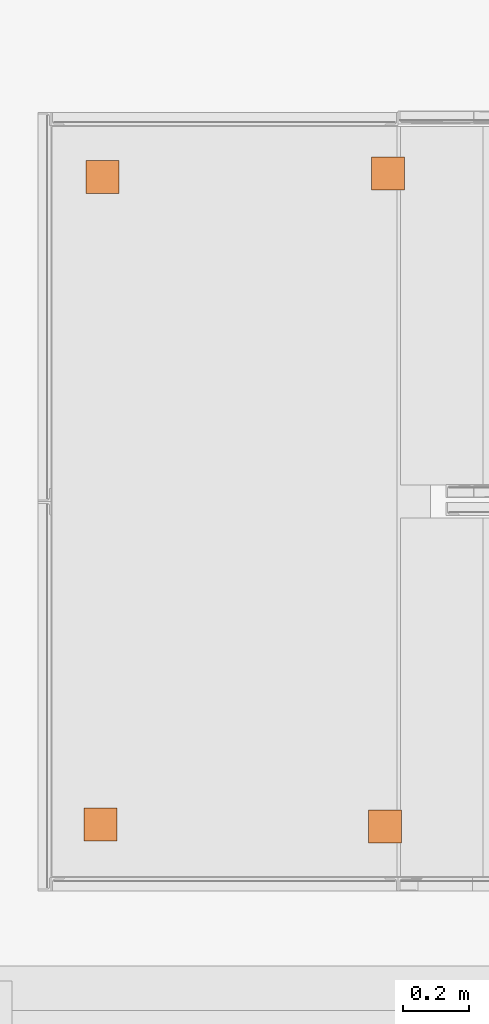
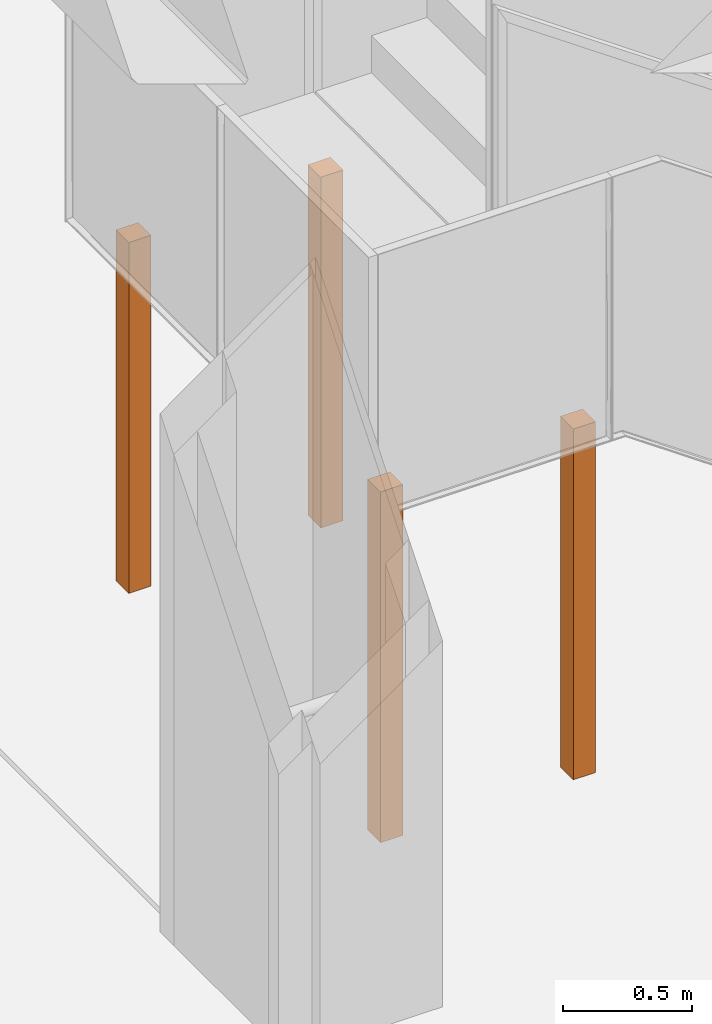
# One storey, part 212 of 230: 4 proxies.
"""IFC4X3_ADD2 building model written with IfcOpenShell, lengths in millimetres."""

from ifc_helpers import new_model, si_unit, direction, frame, frame_2d, origin_with_axes, place, context, subcontext, project, spatial, rectangle, extrude, source, transform, mapped, material, type_object, type_shapes, element, save


model = new_model("IFC4X3_ADD2")

# Units and contexts
model_context = context("Model", 3, precision=1e-05, world=origin_with_axes(), true_north=direction((0.0, 1.0)))
body_context = subcontext(model_context, "Body", "Model", "MODEL_VIEW")
ifc_project = project(units=[si_unit("LENGTHUNIT", "METRE", prefix="MILLI"), si_unit("AREAUNIT", "SQUARE_METRE"), si_unit("VOLUMEUNIT", "CUBIC_METRE"), si_unit("PLANEANGLEUNIT", "RADIAN"), si_unit("TIMEUNIT", "SECOND"), si_unit("MASSUNIT", "GRAM")], contexts=[model_context])

# Site, building, storey
site_placement = place(None, origin_with_axes())
site = spatial("IfcSite", under=ifc_project, at=site_placement, Name="Site", CompositionType="ELEMENT")
building_placement = place(site_placement, origin_with_axes())
building = spatial("IfcBuilding", under=site, at=building_placement, Name="IFC Building Story")
storey_placement = place(building_placement, origin_with_axes())
storey = spatial("IfcBuildingStorey", under=building, at=storey_placement, Name="ETAGE 00 (0)", Elevation=0.0)

# Proxies
ifc_material = material(Name="<Unnamed>")
building_element_proxy_type_1 = type_object("IfcBuildingElementProxyType", Name="1", PredefinedType="NOTDEFINED")
shared_shape_1 = source(origin_with_axes(), body_context, "Body", "SweptSolid", [
    extrude(rectangle(XDim=100.0, YDim=100.0000000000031, at=frame_2d((0.0, 5.95523630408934e-12), x_axis=(1.0, 0.0))), frame((34014.1894781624, 857.499963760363, 10.0), z_axis=(0.0, 0.0, 1.0), x_axis=(1.0, 0.0, 0.0)), (0.0, 0.0, 1.0), 1660.0),
])
type_shapes(building_element_proxy_type_1, [shared_shape_1])
proxy_1_placement = place(storey_placement, origin_with_axes())
element("IfcBuildingElementProxy", 1, at=proxy_1_placement, inside=storey, type_object=building_element_proxy_type_1, material=ifc_material, Name="1:708", ObjectType="1:708", context=body_context, shape_type="MappedRepresentation", body=[
    mapped(shared_shape_1, transform((0.0, 0.0, 0.0))),
])
building_element_proxy_type_2 = type_object("IfcBuildingElementProxyType", Name="3", PredefinedType="NOTDEFINED")
shared_shape_2 = source(origin_with_axes(), body_context, "Body", "SweptSolid", [
    extrude(rectangle(XDim=99.99999999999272, YDim=100.0000000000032, at=frame_2d((0.0, 5.95523630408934e-12), x_axis=(1.0, 0.0))), frame((34874.1894781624, 852.4999637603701, 10.0), z_axis=(0.0, 0.0, 1.0), x_axis=(1.0, 0.0, 0.0)), (0.0, 0.0, 1.0), 1660.0),
])
type_shapes(building_element_proxy_type_2, [shared_shape_2])
proxy_2_placement = place(storey_placement, origin_with_axes())
element("IfcBuildingElementProxy", 2, at=proxy_2_placement, inside=storey, type_object=building_element_proxy_type_2, material=ifc_material, Name="2:774", ObjectType="2:774", context=body_context, shape_type="MappedRepresentation", body=[
    mapped(shared_shape_2, transform((0.0, 0.0, 0.0))),
])
building_element_proxy_type_3 = type_object("IfcBuildingElementProxyType", Name="5", PredefinedType="NOTDEFINED")
shared_shape_3 = source(origin_with_axes(), body_context, "Body", "SweptSolid", [
    extrude(rectangle(XDim=100.0, YDim=100.0, at=frame_2d((0.0, 5.95523630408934e-12), x_axis=(0.0, 1.0))), frame((34019.1894781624, 2817.49996376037, 0.0), z_axis=(0.0, 0.0, 1.0), x_axis=(1.0, 0.0, 0.0)), (0.0, 0.0, 1.0), 1660.0),
])
type_shapes(building_element_proxy_type_3, [shared_shape_3])
proxy_3_placement = place(storey_placement, origin_with_axes())
element("IfcBuildingElementProxy", 3, at=proxy_3_placement, inside=storey, type_object=building_element_proxy_type_3, material=ifc_material, Name="3:924", ObjectType="3:924", context=body_context, shape_type="MappedRepresentation", body=[
    mapped(shared_shape_3, transform((0.0, 0.0, 0.0))),
])
building_element_proxy_type_4 = type_object("IfcBuildingElementProxyType", Name="7", PredefinedType="NOTDEFINED")
shared_shape_4 = source(origin_with_axes(), body_context, "Body", "SweptSolid", [
    extrude(rectangle(XDim=100.0, YDim=100.0, at=frame_2d((0.0, 5.95523630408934e-12), x_axis=(0.0, 1.0))), frame((34884.1894781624, 2827.49996376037, 0.0), z_axis=(0.0, 0.0, 1.0), x_axis=(1.0, 0.0, 0.0)), (0.0, 0.0, 1.0), 1660.0),
])
type_shapes(building_element_proxy_type_4, [shared_shape_4])
proxy_4_placement = place(storey_placement, origin_with_axes())
element("IfcBuildingElementProxy", 4, at=proxy_4_placement, inside=storey, type_object=building_element_proxy_type_4, material=ifc_material, Name="4:990", ObjectType="4:990", context=body_context, shape_type="MappedRepresentation", body=[
    mapped(shared_shape_4, transform((0.0, 0.0, 0.0))),
])

save(model, "model.ifc")
